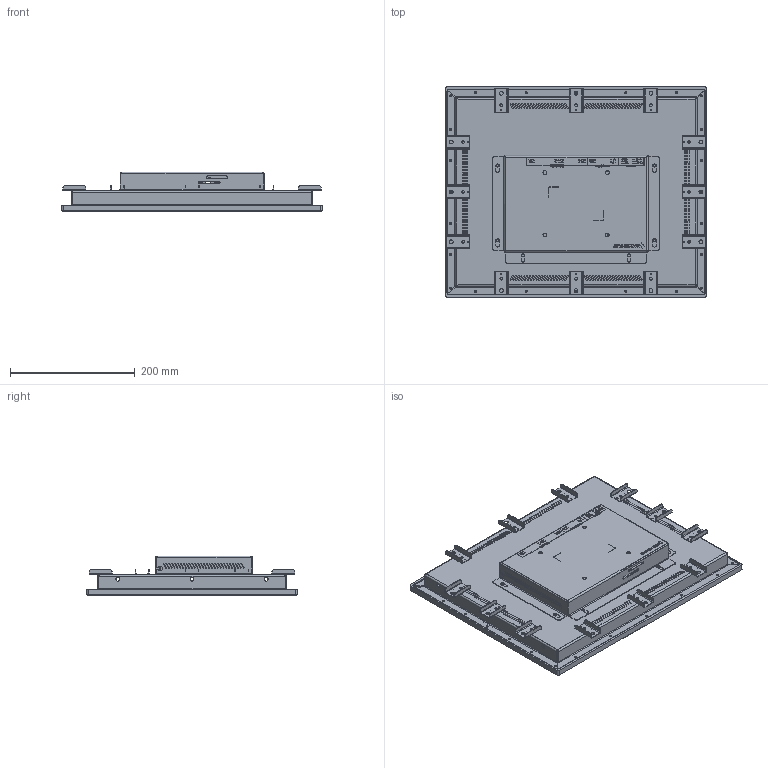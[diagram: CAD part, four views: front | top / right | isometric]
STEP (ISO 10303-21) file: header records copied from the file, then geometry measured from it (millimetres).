
FILE_DESCRIPTION(('STEP AP242'), '1');
FILE_NAME('栖闉罻_Dna17_扻擯艜氁', '', ('UNSPECIFIED'), ('UNSPECIFIED'), 'C3D Converter', 'C3D Toolkit', '');
FILE_SCHEMA(('AP242_MANAGED_MODEL_BASED_3D_ENGINEERING_MIM_LF { 1 0 10303 442 1 1 4 }'));
Length unit declared in the file: millimetre
Bounding box: 418.6 x 338.1 x 64 mm (x, y, z)
Volume: 997938.9 mm3; surface area: 768742.6 mm2
Topology: 2 solids, 2 shells, 3487 faces, 9457 edges, 6180 vertices
Faces by surface type: plane 1749, extrusion 894, cylinder 796, bspline 40, cone 8
Full cylindrical faces by diameter (mm): 1.6 x12, 2 x4, 2.5 x40, 3.5 x24, 4 x6, 4.2 x12, 4.22 x8, 4.35 x12, 6 x12, 6.1 x10
Entity records: 141157 total; most frequent: CARTESIAN_POINT 27215, ORIENTED_EDGE 18634, DIRECTION 15005, EDGE_CURVE 9317, VECTOR 6789, VERTEX_POINT 6180, LINE 5895, EDGE_LOOP 4389
